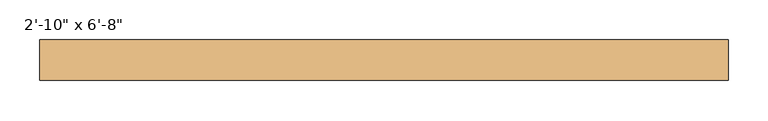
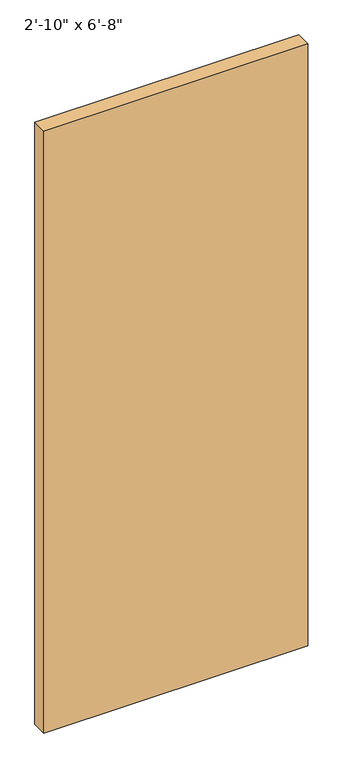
"""IFC4 building model written with IfcOpenShell, lengths in millimetres: door geometry."""

from ifc_helpers import new_model, si_unit, origin, origin_with_axes, place, context, project, spatial, polyline, outline, extrude, source, transform, mapped, element, save


def door_8f505d4d(model_context):
    return source(origin(), model_context, "Body", "SweptSolid", [
        extrude(outline(polyline([(432.0, 31.55), (-432.0, 31.55), (-432.0, 82.55), (432.0, 82.55), (432.0, 31.55)])), origin_with_axes(), (0.0, 0.0, 1.0), 2082.8),
    ])


if __name__ == "__main__":
    model = new_model("IFC4")
    model_context = context("Model", 3, world=origin())
    ifc_project = project(units=[si_unit("LENGTHUNIT", "METRE", prefix="MILLI")], contexts=[model_context])
    site = spatial("IfcSite", under=ifc_project)
    building = spatial("IfcBuilding", under=site)
    placement = place(None, origin())
    door_shape = door_8f505d4d(model_context)
    element("IfcDoor", 1, ObjectType="Planitar - Single Door_Flush Panel : 2'-10\" x 6'-8\"", at=placement, inside=building, context=model_context, shape_type="MappedRepresentation", body=[
        mapped(door_shape, transform((0.0, 0.0, 0.0), x_axis=(1.0, 0.0, 0.0), y_axis=(0.0, 1.0, 0.0), z_axis=(0.0, 0.0, 1.0))),
    ])
    save(model, "model.ifc")
